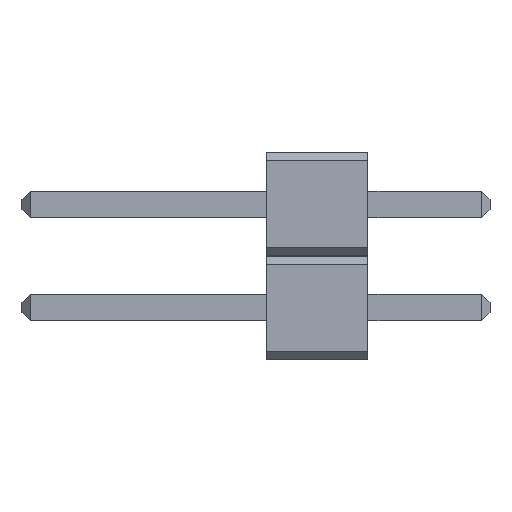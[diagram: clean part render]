
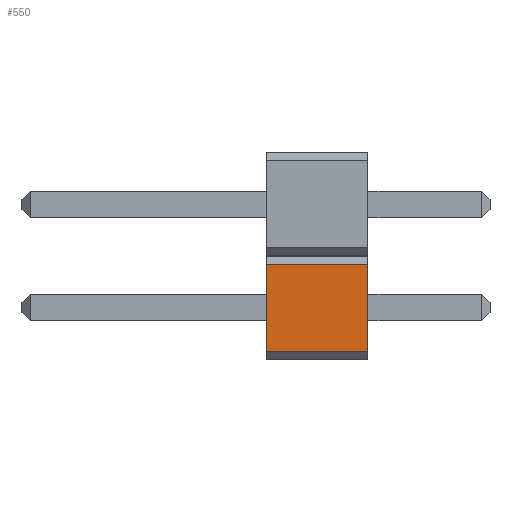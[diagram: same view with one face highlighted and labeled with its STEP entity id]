
A CAD part, left-side view. The second image highlights one B-rep face of the part: STEP entity #550.
In plain terms, the highlighted planar face has unit normal (-1, 0, 0).
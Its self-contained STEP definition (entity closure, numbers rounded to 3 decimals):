
#93 = VERTEX_POINT ( 'NONE', #123 ) ;
#123 = CARTESIAN_POINT ( 'NONE',  ( -1.27, 2.5, -1.07 ) ) ;
#132 = VERTEX_POINT ( 'NONE', #220 ) ;
#156 = CARTESIAN_POINT ( 'NONE',  ( -1.27, 0., 1.27 ) ) ;
#169 = AXIS2_PLACEMENT_3D ( 'NONE', #1025, #389, #1322 ) ;
#220 = CARTESIAN_POINT ( 'NONE',  ( -1.27, 2.5, 1.07 ) ) ;
#234 = CARTESIAN_POINT ( 'NONE',  ( -1.27, 0., -1.07 ) ) ;
#268 = EDGE_LOOP ( 'NONE', ( #1321, #489, #390, #1081 ) ) ;
#291 = EDGE_CURVE ( 'NONE', #1243, #387, #391, .T. ) ;
#293 = DIRECTION ( 'NONE',  ( 0., 0., 1. ) ) ;
#303 = CARTESIAN_POINT ( 'NONE',  ( -1.27, 2.5, 1.27 ) ) ;
#387 = VERTEX_POINT ( 'NONE', #1113 ) ;
#389 = DIRECTION ( 'NONE',  ( 1., 0., 0. ) ) ;
#390 = ORIENTED_EDGE ( 'NONE', *, *, #291, .T. ) ;
#391 = LINE ( 'NONE', #156, #538 ) ;
#489 = ORIENTED_EDGE ( 'NONE', *, *, #885, .T. ) ;
#516 = LINE ( 'NONE', #612, #840 ) ;
#517 = PLANE ( 'NONE',  #169 ) ;
#520 = CARTESIAN_POINT ( 'NONE',  ( -1.27, 2.5, -1.07 ) ) ;
#522 = EDGE_CURVE ( 'NONE', #387, #132, #516, .T. ) ;
#538 = VECTOR ( 'NONE', #977, 1000. ) ;
#550 = ADVANCED_FACE ( 'NONE', ( #854 ), #517, .F. ) ;
#563 = EDGE_CURVE ( 'NONE', #93, #132, #801, .T. ) ;
#612 = CARTESIAN_POINT ( 'NONE',  ( -1.27, 2.5, 1.07 ) ) ;
#801 = LINE ( 'NONE', #303, #1238 ) ;
#809 = DIRECTION ( 'NONE',  ( 0., -1., 0. ) ) ;
#821 = DIRECTION ( 'NONE',  ( 0., 1., 0. ) ) ;
#840 = VECTOR ( 'NONE', #821, 1000. ) ;
#854 = FACE_OUTER_BOUND ( 'NONE', #268, .T. ) ;
#875 = VECTOR ( 'NONE', #809, 1000. ) ;
#885 = EDGE_CURVE ( 'NONE', #93, #1243, #1313, .T. ) ;
#977 = DIRECTION ( 'NONE',  ( 0., 0., 1. ) ) ;
#1025 = CARTESIAN_POINT ( 'NONE',  ( -1.27, 2.5, 1.27 ) ) ;
#1081 = ORIENTED_EDGE ( 'NONE', *, *, #522, .T. ) ;
#1113 = CARTESIAN_POINT ( 'NONE',  ( -1.27, 0., 1.07 ) ) ;
#1238 = VECTOR ( 'NONE', #293, 1000. ) ;
#1243 = VERTEX_POINT ( 'NONE', #234 ) ;
#1313 = LINE ( 'NONE', #520, #875 ) ;
#1321 = ORIENTED_EDGE ( 'NONE', *, *, #563, .F. ) ;
#1322 = DIRECTION ( 'NONE',  ( 0., 0., -1. ) ) ;
